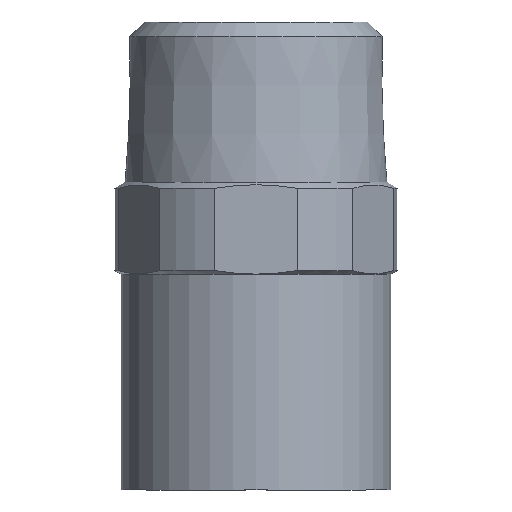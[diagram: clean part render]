
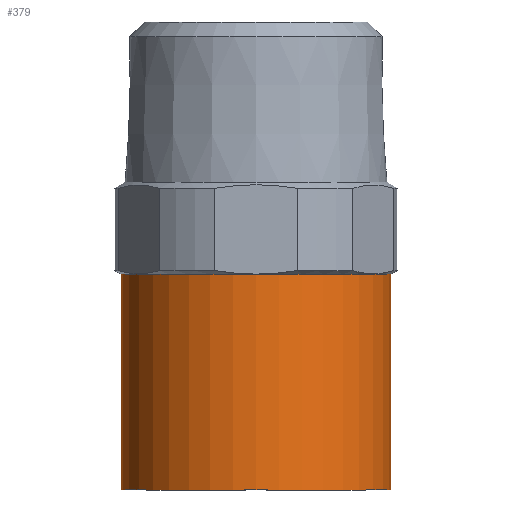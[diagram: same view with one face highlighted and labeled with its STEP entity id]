
A CAD part, front view. The second image highlights one B-rep face of the part: STEP entity #379.
In plain terms, the highlighted cylindrical face has radius 10.95 mm (diameter 21.9 mm), a full revolution.
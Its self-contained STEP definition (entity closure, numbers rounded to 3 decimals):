
#24=CYLINDRICAL_SURFACE('',#443,10.95);
#26=CIRCLE('',#411,10.95);
#45=CIRCLE('',#444,10.95);
#71=FACE_OUTER_BOUND('',#94,.T.);
#94=EDGE_LOOP('',(#342,#343,#344,#345));
#116=LINE('',#691,#136);
#136=VECTOR('',#548,10.95);
#174=VERTEX_POINT('',#631);
#185=VERTEX_POINT('',#689);
#209=EDGE_CURVE('',#174,#174,#26,.T.);
#238=EDGE_CURVE('',#185,#185,#45,.T.);
#239=EDGE_CURVE('',#185,#174,#116,.T.);
#342=ORIENTED_EDGE('',*,*,#238,.F.);
#343=ORIENTED_EDGE('',*,*,#239,.T.);
#344=ORIENTED_EDGE('',*,*,#209,.T.);
#345=ORIENTED_EDGE('',*,*,#239,.F.);
#379=ADVANCED_FACE('',(#71),#24,.T.);
#411=AXIS2_PLACEMENT_3D('',#632,#472,#473);
#443=AXIS2_PLACEMENT_3D('',#688,#544,#545);
#444=AXIS2_PLACEMENT_3D('',#690,#546,#547);
#472=DIRECTION('center_axis',(0.,0.,-1.));
#473=DIRECTION('ref_axis',(1.,0.,0.));
#544=DIRECTION('center_axis',(0.,0.,-1.));
#545=DIRECTION('ref_axis',(0.,1.,0.));
#546=DIRECTION('center_axis',(0.,0.,-1.));
#547=DIRECTION('ref_axis',(1.,0.,0.));
#548=DIRECTION('',(0.,0.,1.));
#631=CARTESIAN_POINT('',(0.,-10.95,-1.5));
#632=CARTESIAN_POINT('Origin',(0.,0.,-1.5));
#688=CARTESIAN_POINT('Origin',(0.,0.,-10.25));
#689=CARTESIAN_POINT('',(0.,-10.95,-19.));
#690=CARTESIAN_POINT('Origin',(0.,0.,-19.));
#691=CARTESIAN_POINT('',(0.,-10.95,-10.25));
